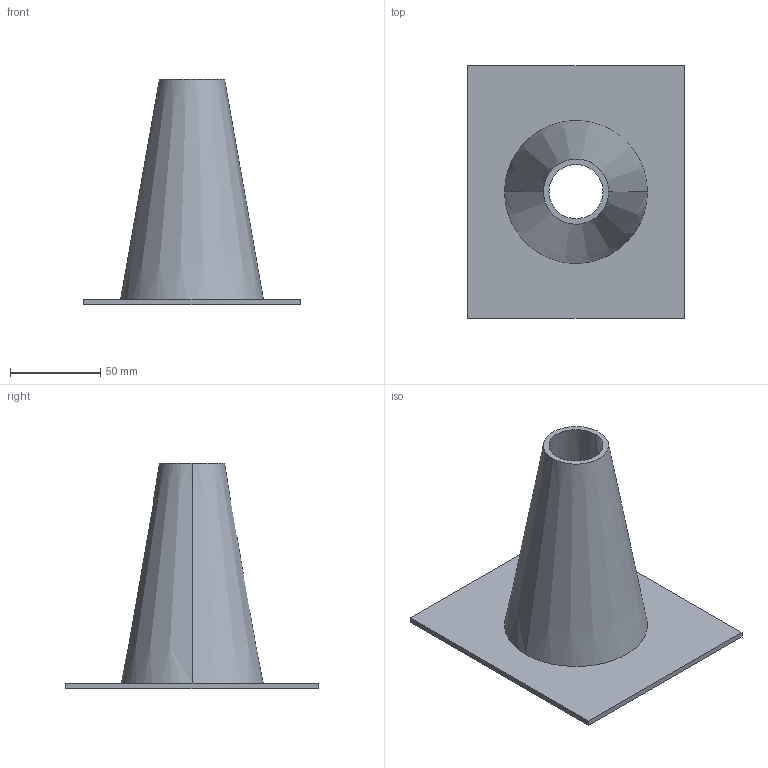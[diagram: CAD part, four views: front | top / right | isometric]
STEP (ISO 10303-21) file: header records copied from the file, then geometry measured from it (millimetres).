
FILE_DESCRIPTION(('CATIA V5 STEP Exchange'),'2;1');
FILE_NAME('C:\_Andres\UNIVERSIDAD\IQS\ASIGNATURAS\DAO\EXF\EXF-15161c\1original\Garcia_Granada_Ej08-ensambla_v30.stp','2016-03-04T21:37:21+00:00',('none'),('none'),'CATIA Version 5 Release 20 SP 1 (IN-10)','CATIA V5 STEP AP203','none');
FILE_SCHEMA(('CONFIG_CONTROL_DESIGN'));
Length unit declared in the file: millimetre
Products named in the file (1): Garcia_Granada_Ej08-ensambla_v30
Bounding box: 120 x 140 x 125 mm (x, y, z)
Volume: 101352.4 mm3; surface area: 69420.4 mm2
Topology: 1 solids, 1 shells, 11 faces, 24 edges, 16 vertices
Faces by surface type: plane 7, cone 4
Entity records: 414 total; most frequent: CARTESIAN_POINT 127, ORIENTED_EDGE 48, DIRECTION 44, EDGE_CURVE 24, AXIS2_PLACEMENT_3D 17, VECTOR 16, LINE 16, VERTEX_POINT 16
